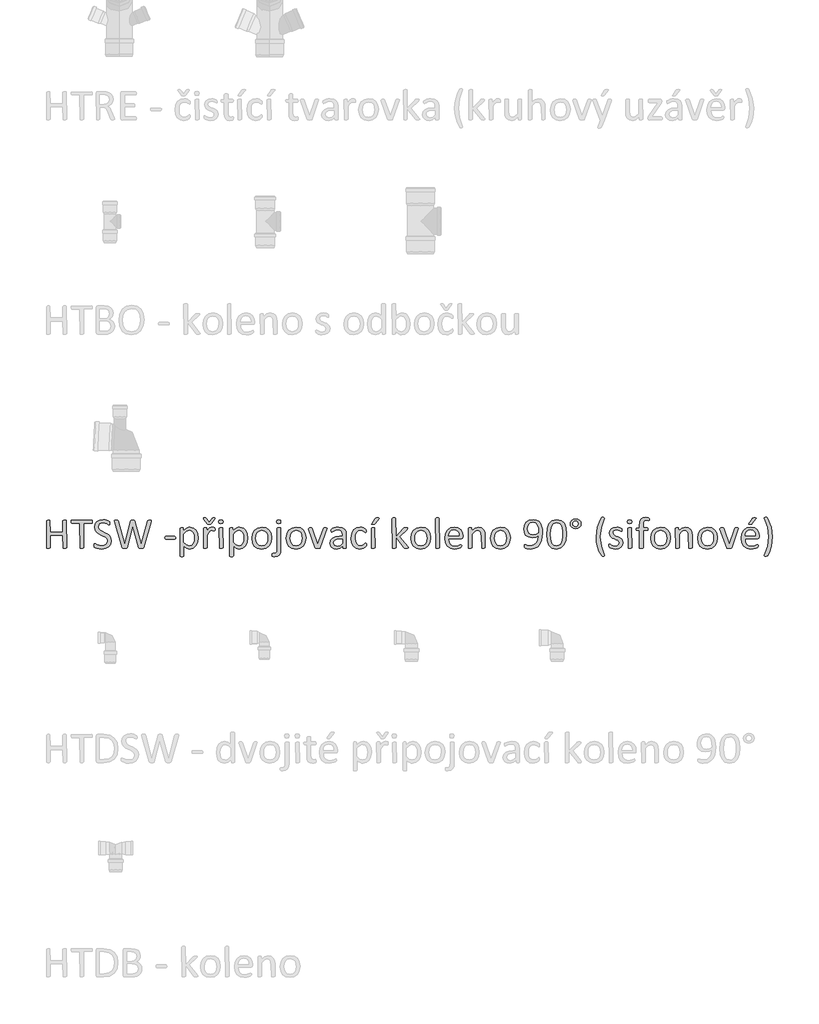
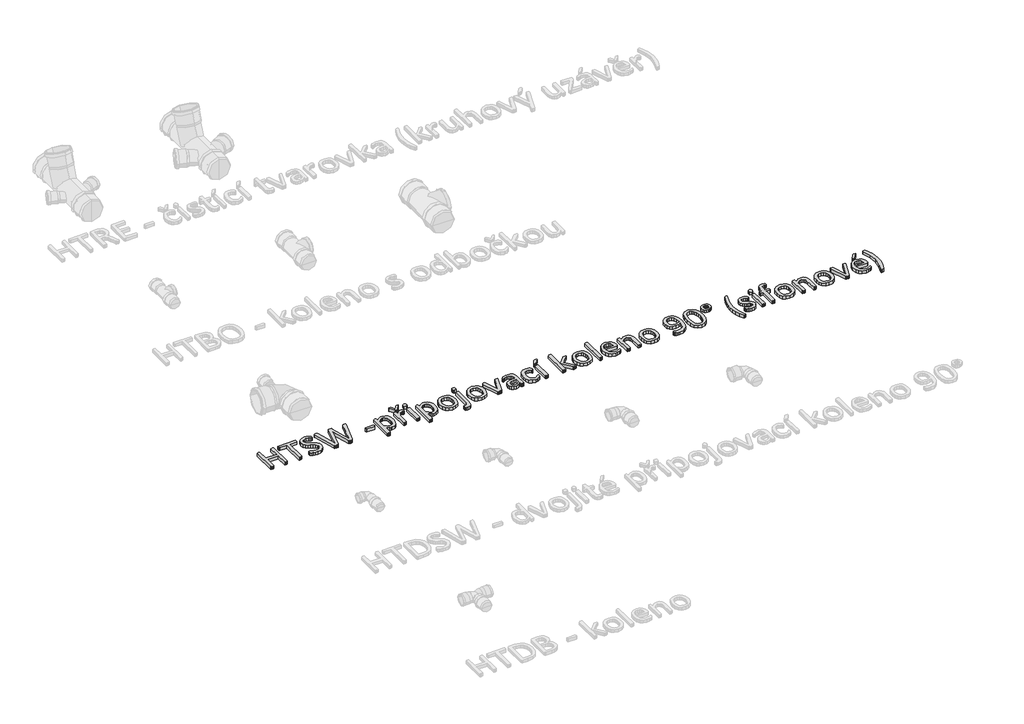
# One storey, part 5 of 26: 1 proxy.
"""IFC4 building model written with IfcOpenShell, lengths in millimetres."""

from ifc_helpers import new_model, si_unit, origin, origin_with_axes, place, context, project, spatial, polyline, outline, extrude, element, save

model = new_model("IFC4")

# Units and contexts
model_context = context("Model", 3, world=origin())
ifc_project = project(units=[si_unit("LENGTHUNIT", "METRE", prefix="MILLI")], contexts=[model_context])

# Site, building, storey
site = spatial("IfcSite", under=ifc_project)
building = spatial("IfcBuilding", under=site)
storey = spatial("IfcBuildingStorey", under=building, Name="Podlaží 1", Elevation=0.0)

# Proxy
placement = place(None, origin())
element("IfcBuildingElementProxy", 1, Name="120mm Arial", ObjectType="120mm Arial", at=placement, inside=storey, context=model_context, shape_type="SweptSolid", body=[
    extrude(outline(polyline([(-20465.0657483, -2131.9493003), (-20469.2817655, -2134.6815689), (-20473.1358927, -2134.9167974), (-20477.1166815, -2134.6815689), (-20479.5775327, -2134.1387341), (-20481.2784151, -2079.3305111), (-20534.5486061, -2079.3305111), (-20534.5486061, -2131.9854893), (-20538.7465288, -2134.6815689), (-20542.6549395, -2134.9167974), (-20546.5271613, -2134.6815689), (-20549.0603905, -2134.1206396), (-20550.7612729, -2017.4473409), (-20546.5271613, -2014.7150723), (-20542.6549395, -2014.4798438), (-20538.7465288, -2014.7150723), (-20536.2494886, -2015.2760016), (-20534.5486061, -2065.4339396), (-20481.2784151, -2065.4339396), (-20481.2784151, -2017.4473409), (-20477.1166815, -2014.7150723), (-20473.1358927, -2014.4798438), (-20469.2817655, -2014.7150723), (-20466.7666308, -2015.2760016), (-20465.0657483, -2131.9493003)])), origin_with_axes(), (0.0, 0.0, 1.0), 15.0),
    extrude(outline(polyline([(-20356.2092711, -2021.5366966), (-20356.390216, -2024.6670441), (-20356.9873343, -2026.8021944), (-20393.2667952, -2028.3764154), (-20393.2667952, -2131.9493003), (-20397.4647179, -2134.6815689), (-20401.3731287, -2134.9167974), (-20405.2453504, -2134.6815689), (-20407.7785796, -2134.1206396), (-20409.4794621, -2028.3764154), (-20443.3885442, -2028.3764154), (-20446.3017578, -2024.6670441), (-20446.5369862, -2021.5366966), (-20446.3017578, -2018.3339711), (-20445.686545, -2016.0902538), (-20359.3939021, -2014.4798438), (-20357.0054288, -2016.0902538), (-20356.390216, -2018.3339711), (-20356.2092711, -2021.5366966)])), origin_with_axes(), (0.0, 0.0, 1.0), 15.0),
    extrude(outline(polyline([(-20275.145937, -2101.3696051), (-20278.25819, -2116.5689802), (-20286.9254527, -2127.8780391), (-20299.9715831, -2134.8806084), (-20316.1118719, -2137.2328926), (-20327.3304583, -2136.3281679), (-20336.5586504, -2134.1025451), (-20343.3621802, -2131.3702765), (-20347.1801185, -2128.9637088), (-20348.7543395, -2126.1771567), (-20349.2609853, -2121.4183047), (-20349.0800404, -2117.8898783), (-20348.519111, -2115.6280665), (-20342.5479279, -2115.5194996), (-20336.3777054, -2118.6679416), (-20327.3123638, -2121.8525725), (-20315.0623912, -2123.3363211), (-20305.4180258, -2121.9249505), (-20297.9088107, -2117.9441618), (-20293.0594863, -2111.6472778), (-20291.3586038, -2103.1428655), (-20293.747077, -2094.3127523), (-20300.0258665, -2087.8892069), (-20308.9102632, -2082.8227485), (-20319.1517469, -2078.11818), (-20329.3389472, -2072.8164932), (-20338.1871548, -2065.9767744), (-20344.5202278, -2056.7123934), (-20346.94489, -2044.0100584), (-20344.1764324, -2030.4210933), (-20336.4862724, -2020.4329324), (-20324.7610401, -2014.2808044), (-20310.0683108, -2012.1637486), (-20301.9438829, -2012.9418118), (-20294.2537229, -2015.0045842), (-20287.8120829, -2017.8816088), (-20284.1027116, -2020.4510269), (-20282.944664, -2021.95287), (-20282.1846952, -2025.2641624), (-20282.0942228, -2028.2316595), (-20282.2389787, -2031.3077235), (-20282.6551521, -2033.5514408), (-20287.8844609, -2033.9133306), (-20293.3128092, -2030.7467941), (-20300.9124968, -2027.5259742), (-20310.7559016, -2026.0603201), (-20319.6041093, -2027.3812182), (-20325.8286153, -2030.8915501), (-20329.5017976, -2036.1027644), (-20330.7322232, -2042.4901209), (-20328.379939, -2051.2116671), (-20322.1011495, -2057.689496), (-20313.1805638, -2062.8645214), (-20302.9933636, -2067.6052789), (-20292.7880688, -2072.8707767), (-20283.8674832, -2079.6381175), (-20277.5525047, -2088.8301206), (-20275.145937, -2101.3696051)])), origin_with_axes(), (0.0, 0.0, 1.0), 15.0),
    extrude(outline(polyline([(-20137.338269, -2130.8636307), (-20138.4782221, -2132.9444975), (-20140.5048055, -2134.1387341), (-20143.6894365, -2134.7358524), (-20148.3759105, -2134.9167974), (-20153.2614239, -2134.7358524), (-20156.5546219, -2134.1387341), (-20158.4907328, -2132.9444975), (-20159.5221189, -2130.8636307), (-20184.6372769, -2040.7530495), (-20208.0153634, -2130.8636307), (-20208.9381826, -2132.9444975), (-20210.783821, -2134.1387341), (-20213.8960741, -2134.7358524), (-20218.763493, -2134.9167974), (-20223.8661404, -2134.7358524), (-20227.1955273, -2134.1387341), (-20229.2040162, -2132.9444975), (-20230.1630244, -2130.8636307), (-20261.9007672, -2020.6681609), (-20262.4978855, -2017.3387739), (-20261.7560113, -2015.4931355), (-20259.2046876, -2014.6607888), (-20254.4820246, -2014.4798438), (-20249.922212, -2014.6245998), (-20247.3708884, -2015.1312456), (-20245.6519114, -2017.8092308), (-20218.691115, -2117.7632168), (-20192.9969332, -2017.9901757), (-20192.291248, -2016.2892933), (-20190.9522554, -2015.2217181), (-20188.3104592, -2014.6607888), (-20183.8049302, -2014.4798438), (-20179.6793855, -2014.6607888), (-20177.2366288, -2015.2217181), (-20175.8795417, -2016.2892933), (-20175.1919509, -2017.9901757), (-20147.6521307, -2117.7632168), (-20121.0170352, -2017.8816088), (-20120.4742004, -2016.2892933), (-20116.8191126, -2014.6607888), (-20112.5126229, -2014.4798438), (-20108.0975664, -2014.7150723), (-20105.7271876, -2015.583608), (-20105.0395968, -2017.4292464), (-20105.5281482, -2020.7405388), (-20137.338269, -2130.8636307)])), origin_with_axes(), (0.0, 0.0, 1.0), 15.0),
    extrude(outline(polyline([(-20001.8466963, -2089.7167508), (-20002.6971375, -2094.2765633), (-20005.1760832, -2095.5431779), (-20044.7668366, -2095.5431779), (-20047.3181603, -2094.2403744), (-20048.1686015, -2089.7167508), (-20047.3181603, -2085.2293162), (-20044.7668366, -2083.9627016), (-20005.1760832, -2083.9627016), (-20002.0819247, -2087.0025767), (-20001.8466963, -2089.7167508)])), origin_with_axes(), (0.0, 0.0, 1.0), 15.0),
    extrude(outline(polyline([(-19906.8867906, -2089.6443728), (-19909.2028859, -2109.494033), (-19916.0064157, -2124.4400852), (-19927.1345297, -2133.9035057), (-19942.3158103, -2137.2328926), (-19949.0288677, -2136.4910184), (-19955.0724287, -2134.1387341), (-19960.9350449, -2130.1036619), (-19967.1052674, -2124.3858017), (-19967.1052674, -2166.6545402), (-19968.7880554, -2168.916352), (-19971.2308121, -2169.4772813), (-19975.2477898, -2169.6582263), (-19979.1923895, -2169.4772813), (-19981.6894297, -2168.916352), (-19982.9741388, -2167.9754383), (-19982.9741388, -2049.8002966), (-19979.5904684, -2047.0499334), (-19976.2248925, -2046.9051775), (-19972.8412221, -2047.0318389), (-19970.6336938, -2047.5022958), (-19969.0594728, -2060.1503473), (-19961.8759586, -2053.3106284), (-19954.9095783, -2048.4793985), (-19947.7079696, -2045.5661849), (-19939.9273371, -2044.5890822), (-19924.7279619, -2048.1536976), (-19914.4864782, -2057.8885355), (-19908.7143346, -2072.2555639), (-19906.8867906, -2089.6443728)]), holes=[polyline([(-19923.0994575, -2091.4176333), (-19924.0403712, -2079.1495662), (-19927.2792856, -2068.6185705), (-19933.4495082, -2061.2541114), (-19943.0757791, -2058.4856538), (-19948.7574503, -2059.336095), (-19954.421027, -2062.0502691), (-19960.4464935, -2066.9357826), (-19967.1052674, -2074.3726197), (-19967.1052674, -2107.919812), (-19955.5066966, -2119.3736268), (-19943.9805038, -2123.3363211), (-19934.3904219, -2120.5678634), (-19927.9125929, -2113.2034043), (-19924.2755996, -2102.9076371), (-19923.0994575, -2091.4176333)])]), origin_with_axes(), (0.0, 0.0, 1.0), 15.0),
    extrude(outline(polyline([(-19847.8263615, -2007.8934479), (-19846.6683139, -2006.6087389), (-19843.3751159, -2005.3421243), (-19840.4799969, -2005.2154628), (-19836.6982476, -2005.5230692), (-19834.8887981, -2006.4096994), (-19836.2458852, -2010.2095432), (-19851.1919374, -2030.6925107), (-19852.3680796, -2031.8505583), (-19853.9603951, -2032.5200546), (-19856.2764903, -2032.8819445), (-19859.6239717, -2033.0086059), (-19862.7724137, -2032.8819445), (-19864.9980365, -2032.4838656), (-19866.5360685, -2031.7600858), (-19882.5677904, -2010.2095432), (-19883.9610665, -2007.9839204), (-19882.0611446, -2005.5230692), (-19878.2974898, -2005.2154628), (-19875.1852368, -2005.3421243), (-19873.3034094, -2005.7944866), (-19870.9873141, -2007.8934479), (-19859.4068378, -2024.0699258), (-19847.8263615, -2007.8934479)])), origin_with_axes(), (0.0, 0.0, 1.0), 15.0),
    extrude(outline(polyline([(-19835.0878376, -2053.8534633), (-19835.1783101, -2057.1466612), (-19835.5401999, -2059.2818115), (-19839.0867208, -2060.4941426), (-19841.4209106, -2059.6617959), (-19844.3341241, -2058.8656382), (-19847.8263615, -2058.4856538), (-19852.2414181, -2059.480851), (-19856.7831362, -2062.7378599), (-19861.7591221, -2068.745232), (-19867.5131712, -2077.9191406), (-19867.5131712, -2132.0940563), (-19871.6387159, -2134.7358524), (-19875.6556936, -2134.9167974), (-19879.6002934, -2134.7358524), (-19882.0973336, -2134.1930176), (-19883.725838, -2049.7279186), (-19879.9983722, -2047.0499334), (-19876.3432844, -2046.9051775), (-19872.7605745, -2047.0499334), (-19870.5530463, -2047.5927683), (-19869.0692977, -2061.7426627), (-19862.8086027, -2053.1658725), (-19857.253593, -2047.9365637), (-19852.0785677, -2045.312862), (-19846.8854478, -2044.5890822), (-19844.2436517, -2044.7157437), (-19841.1313987, -2045.204295), (-19838.2000906, -2046.0185473), (-19836.3544522, -2046.9051775), (-19835.1240266, -2050.5964543), (-19835.0878376, -2053.8534633)])), origin_with_axes(), (0.0, 0.0, 1.0), 15.0),
    extrude(outline(polyline([(-19800.3464087, -2132.0940563), (-19804.4719534, -2134.7358524), (-19808.4889311, -2134.9167974), (-19812.4335308, -2134.7358524), (-19814.930571, -2134.1930176), (-19816.5590755, -2049.7279186), (-19812.4335308, -2047.0861224), (-19808.4889311, -2046.9051775), (-19804.4719534, -2047.0861224), (-19802.0291966, -2047.6289573), (-19800.3464087, -2132.0940563)])), origin_with_axes(), (0.0, 0.0, 1.0), 15.0),
    extrude(outline(polyline([(-19800.3464087, -2021.3195627), (-19802.336803, -2028.7202108), (-19809.7193567, -2030.6925107), (-19816.9209654, -2028.7744943), (-19818.8751708, -2021.5366966), (-19816.8847764, -2014.1360485), (-19809.5022228, -2012.1637486), (-19802.3006141, -2014.081765), (-19800.3464087, -2021.3195627)])), origin_with_axes(), (0.0, 0.0, 1.0), 15.0),
    extrude(outline(polyline([(-19696.122122, -2089.6443728), (-19698.4382172, -2109.494033), (-19705.2417471, -2124.4400852), (-19716.369861, -2133.9035057), (-19731.5511417, -2137.2328926), (-19738.264199, -2136.4910184), (-19744.3077601, -2134.1387341), (-19750.1703762, -2130.1036619), (-19756.3405987, -2124.3858017), (-19756.3405987, -2166.6545402), (-19758.0233867, -2168.916352), (-19760.4661434, -2169.4772813), (-19764.4831211, -2169.6582263), (-19768.4277209, -2169.4772813), (-19770.9247611, -2168.916352), (-19772.2094702, -2167.9754383), (-19772.2094702, -2049.8002966), (-19768.8257998, -2047.0499334), (-19765.4602238, -2046.9051775), (-19762.0765534, -2047.0318389), (-19759.8690251, -2047.5022958), (-19758.2948041, -2060.1503473), (-19751.1112899, -2053.3106284), (-19744.1449096, -2048.4793985), (-19736.9433009, -2045.5661849), (-19729.1626684, -2044.5890822), (-19713.9632933, -2048.1536976), (-19703.7218096, -2057.8885355), (-19697.9496659, -2072.2555639), (-19696.122122, -2089.6443728)]), holes=[polyline([(-19712.3347888, -2091.4176333), (-19713.2757025, -2079.1495662), (-19716.514617, -2068.6185705), (-19722.6848395, -2061.2541114), (-19732.3111104, -2058.4856538), (-19737.9927816, -2059.336095), (-19743.6563583, -2062.0502691), (-19749.6818249, -2066.9357826), (-19756.3405987, -2074.3726197), (-19756.3405987, -2107.919812), (-19744.7420279, -2119.3736268), (-19733.2158351, -2123.3363211), (-19723.6257532, -2120.5678634), (-19717.1479243, -2113.2034043), (-19713.5109309, -2102.9076371), (-19712.3347888, -2091.4176333)])]), origin_with_axes(), (0.0, 0.0, 1.0), 15.0),
    extrude(outline(polyline([(-19594.2139305, -2090.0062627), (-19596.8919157, -2108.9873871), (-19604.9077766, -2123.9334394), (-19618.2615134, -2133.7225607), (-19636.8445589, -2137.2328926), (-19654.7581082, -2134.1387341), (-19667.4966321, -2125.1457705), (-19675.0963197, -2110.8149311), (-19677.5933599, -2091.7071452), (-19674.9515637, -2072.7260207), (-19666.9899863, -2057.798063), (-19653.690533, -2048.0632251), (-19635.0712985, -2044.5890822), (-19617.1396547, -2047.6832407), (-19604.4011308, -2056.6762044), (-19596.7652542, -2071.0070438), (-19594.2139305, -2090.0062627)]), holes=[polyline([(-19610.4265974, -2091.0919324), (-19611.6751175, -2078.5162589), (-19615.7825677, -2068.1300192), (-19623.5089167, -2061.0731665), (-19635.6865113, -2058.4856538), (-19647.2488931, -2060.8560325), (-19655.2104706, -2067.5509954), (-19659.8607556, -2077.7924791), (-19661.3806931, -2090.7300425), (-19660.132173, -2103.3780939), (-19655.9885338, -2113.7281446), (-19648.2079013, -2120.7488084), (-19636.0484012, -2123.3363211), (-19624.5222084, -2120.9659423), (-19616.5063474, -2114.3252629), (-19611.8922514, -2104.1199682), (-19610.4265974, -2091.0919324)])]), origin_with_axes(), (0.0, 0.0, 1.0), 15.0),
    extrude(outline(polyline([(-19554.8403111, -2021.3195627), (-19556.8488, -2028.7202108), (-19564.2494481, -2030.6925107), (-19571.4510568, -2028.7744943), (-19573.3690732, -2021.5366966), (-19571.4148678, -2014.1360485), (-19564.0685032, -2012.1637486), (-19556.7583275, -2014.081765), (-19554.8403111, -2021.3195627)])), origin_with_axes(), (0.0, 0.0, 1.0), 15.0),
    extrude(outline(polyline([(-19554.8403111, -2136.2919789), (-19556.3059652, -2151.672299), (-19560.8838722, -2161.5518929), (-19568.8816386, -2167.6135484), (-19580.6792489, -2169.6582263), (-19585.9990302, -2169.2601474), (-19589.3646061, -2168.3735172), (-19590.9750161, -2167.2516585), (-19591.6083234, -2165.76791), (-19591.8435518, -2164.0308386), (-19591.8978353, -2161.8775938), (-19591.7530793, -2158.8196242), (-19591.264528, -2156.7387574), (-19587.0846998, -2155.5264263), (-19583.1401001, -2155.7616547), (-19577.6212793, -2154.8388355), (-19573.875719, -2151.817055), (-19571.7405687, -2146.3706122), (-19571.0529779, -2136.2196009), (-19571.0529779, -2049.7641076), (-19569.334001, -2047.6470517), (-19566.8550553, -2047.0861224), (-19562.9466445, -2046.9051775), (-19559.0382338, -2047.0861224), (-19556.5592881, -2047.6470517), (-19555.23839, -2048.569871), (-19554.8403111, -2136.2919789)])), origin_with_axes(), (0.0, 0.0, 1.0), 15.0),
    extrude(outline(polyline([(-19448.2999292, -2090.0062627), (-19450.9779143, -2108.9873871), (-19458.9937752, -2123.9334394), (-19472.347512, -2133.7225607), (-19490.9305575, -2137.2328926), (-19508.8441068, -2134.1387341), (-19521.5826307, -2125.1457705), (-19529.1823183, -2110.8149311), (-19531.6793585, -2091.7071452), (-19529.0375624, -2072.7260207), (-19521.0759849, -2057.798063), (-19507.7765317, -2048.0632251), (-19489.1572971, -2044.5890822), (-19471.2256533, -2047.6832407), (-19458.4871294, -2056.6762044), (-19450.8512528, -2071.0070438), (-19448.2999292, -2090.0062627)]), holes=[polyline([(-19464.512596, -2091.0919324), (-19465.7611161, -2078.5162589), (-19469.8685663, -2068.1300192), (-19477.5949153, -2061.0731665), (-19489.7725099, -2058.4856538), (-19501.3348917, -2060.8560325), (-19509.2964692, -2067.5509954), (-19513.9467542, -2077.7924791), (-19515.4666917, -2090.7300425), (-19514.2181716, -2103.3780939), (-19510.0745324, -2113.7281446), (-19502.2938999, -2120.7488084), (-19490.1343998, -2123.3363211), (-19478.608207, -2120.9659423), (-19470.592346, -2114.3252629), (-19465.97825, -2104.1199682), (-19464.512596, -2091.0919324)])]), origin_with_axes(), (0.0, 0.0, 1.0), 15.0),
    extrude(outline(polyline([(-19358.9402695, -2048.497493), (-19387.4300506, -2131.6235994), (-19388.4071533, -2133.2701984), (-19390.2166027, -2134.2653956), (-19393.2745722, -2134.7720414), (-19397.9248573, -2134.9167974), (-19402.5389533, -2134.7358524), (-19405.5607338, -2134.1930176), (-19407.3701832, -2133.1797259), (-19408.3834749, -2131.6235994), (-19436.7556418, -2053.3830064), (-19437.3527602, -2051.4830845), (-19433.7519558, -2046.99565), (-19430.169246, -2046.9051775), (-19425.8627563, -2047.0499334), (-19423.3657161, -2047.5565793), (-19421.2667548, -2049.8364855), (-19397.7077233, -2117.7270279), (-19373.786802, -2049.8364855), (-19371.8145021, -2047.5565793), (-19369.3898399, -2047.0499334), (-19365.3547677, -2046.9051775), (-19361.8263413, -2046.99565), (-19358.9402695, -2048.497493)])), origin_with_axes(), (0.0, 0.0, 1.0), 15.0),
    extrude(outline(polyline([(-19276.9088799, -2132.1302453), (-19277.7050377, -2133.8130332), (-19279.876377, -2134.64538), (-19283.9295437, -2134.9167974), (-19288.0369939, -2134.64538), (-19290.2626167, -2133.8130332), (-19290.9502074, -2132.1302453), (-19290.9502074, -2123.8067779), (-19303.1458965, -2133.4330488), (-19317.404358, -2137.2328926), (-19329.3648187, -2135.5139157), (-19338.4663493, -2130.5379298), (-19344.3108709, -2122.5401633), (-19346.3917377, -2111.7558448), (-19343.5147131, -2099.4877777), (-19335.2636238, -2090.8386094), (-19322.1089265, -2085.6816786), (-19304.5934561, -2083.9627016), (-19293.1215467, -2083.9627016), (-19293.1215467, -2077.0506049), (-19294.1348384, -2068.0033577), (-19297.3918474, -2061.4531508), (-19303.20018, -2057.5085511), (-19311.9760097, -2056.1695585), (-19322.018454, -2057.6171181), (-19329.7990865, -2060.801749), (-19335.3902852, -2063.98638), (-19338.7196722, -2065.4339396), (-19341.5786023, -2061.9055132), (-19341.7595472, -2059.2456225), (-19341.4338463, -2055.4457788), (-19339.8415308, -2052.7858881), (-19335.4988522, -2050.071714), (-19328.4058105, -2047.3937288), (-19319.6299808, -2045.38524), (-19310.0218043, -2044.5890822), (-19294.6414843, -2046.6337601), (-19284.381906, -2052.6049432), (-19278.6821404, -2062.3578755), (-19276.9088799, -2075.9649352), (-19276.9088799, -2132.1302453)]), holes=[polyline([(-19293.1215467, -2095.5431779), (-19306.0048266, -2095.5431779), (-19316.7529562, -2096.6107531), (-19324.3345493, -2099.7591951), (-19328.7677004, -2104.7532755), (-19330.1790709, -2111.4663329), (-19326.1259042, -2121.8163836), (-19314.7625618, -2125.6524163), (-19303.7611093, -2122.5944468), (-19293.1215467, -2113.2395933), (-19293.1215467, -2095.5431779)])]), origin_with_axes(), (0.0, 0.0, 1.0), 15.0),
    extrude(outline(polyline([(-19191.2133553, -2118.2698627), (-19191.3038278, -2120.8030919), (-19191.6295287, -2122.6125413), (-19193.619923, -2126.2495346), (-19197.5102393, -2129.777961), (-19203.6804618, -2133.5235213), (-19211.1172989, -2136.2015065), (-19219.4407663, -2137.2328926), (-19235.1467873, -2134.2292066), (-19246.6006021, -2125.4533769), (-19253.6393604, -2111.3034824), (-19256.0640226, -2091.9604681), (-19253.0965255, -2070.5184924), (-19244.9720976, -2055.8438576), (-19232.830692, -2047.3575398), (-19217.7036948, -2044.5890822), (-19210.0678183, -2045.4033345), (-19203.2642884, -2047.5384848), (-19197.7273732, -2050.5783598), (-19194.2170413, -2053.5277624), (-19192.7151983, -2055.4638733), (-19192.0276075, -2057.0019053), (-19191.6657177, -2058.9018272), (-19191.5752452, -2061.5617178), (-19192.3894974, -2066.3748533), (-19194.3617973, -2067.7500348), (-19197.4921448, -2066.3024753), (-19201.9614849, -2063.1178443), (-19208.5297863, -2059.9332133), (-19217.5951279, -2058.4856538), (-19227.1173555, -2060.5846151), (-19234.1154011, -2066.8814991), (-19238.4173671, -2077.1772663), (-19239.8513558, -2091.2728773), (-19238.3676072, -2105.2780158), (-19233.9887396, -2115.3385546), (-19226.8776034, -2121.3640212), (-19217.233238, -2123.3363211), (-19208.2040854, -2121.5087771), (-19201.4729335, -2117.4917994), (-19196.6778926, -2113.5291052), (-19193.6380175, -2111.7558448), (-19191.3400168, -2115.3204601), (-19191.2133553, -2118.2698627)])), origin_with_axes(), (0.0, 0.0, 1.0), 15.0),
    extrude(outline(polyline([(-19154.1558311, -2132.0940563), (-19158.2813758, -2134.7358524), (-19162.2983535, -2134.9167974), (-19166.2429533, -2134.7358524), (-19168.7399935, -2134.1930176), (-19170.368498, -2049.7279186), (-19166.2429533, -2047.0499334), (-19162.2983535, -2046.9051775), (-19158.2813758, -2047.0499334), (-19155.8386191, -2047.5927683), (-19154.1558311, -2132.0940563)])), origin_with_axes(), (0.0, 0.0, 1.0), 15.0),
    extrude(outline(polyline([(-19154.1920201, -2008.5086608), (-19152.8530276, -2006.9163453), (-19150.9892947, -2005.9392426), (-19148.257026, -2005.3964077), (-19144.3486153, -2005.2154628), (-19140.0059367, -2005.5230692), (-19137.6898414, -2006.4096994), (-19137.9431643, -2009.3410075), (-19155.2415008, -2030.1496758), (-19156.6347768, -2031.5791409), (-19158.0642419, -2032.4295821), (-19160.1632032, -2032.8819445), (-19163.3840232, -2033.0086059), (-19166.7134101, -2032.7371885), (-19168.4504816, -2032.0134087), (-19168.0524027, -2029.1725732), (-19154.1920201, -2008.5086608)])), origin_with_axes(), (0.0, 0.0, 1.0), 15.0),
    extrude(outline(polyline([(-19012.8740203, -2131.9854893), (-19016.9452815, -2134.7358524), (-19020.9441647, -2134.9167974), (-19025.0697094, -2134.7720414), (-19027.8200725, -2134.3196791), (-19029.6295219, -2133.4149543), (-19030.8961365, -2131.9854893), (-19066.1442113, -2086.4235529), (-19066.1442113, -2132.0940563), (-19070.2697559, -2134.7358524), (-19074.2867337, -2134.9167974), (-19078.2313334, -2134.7358524), (-19080.7283736, -2134.1749231), (-19082.3568781, -2008.1829599), (-19078.2313334, -2005.3964077), (-19074.2867337, -2005.2154628), (-19070.2697559, -2005.3964077), (-19067.8269992, -2005.9573371), (-19066.5422901, -2006.8982508), (-19066.1442113, -2084.3245915), (-19033.9360115, -2050.0898085), (-19032.3256016, -2048.5879654), (-19030.2990182, -2047.5927683), (-19027.5124661, -2047.0499334), (-19023.6221498, -2046.9051775), (-19019.6413611, -2047.0499334), (-19017.0538484, -2047.5022958), (-19015.6243834, -2048.316548), (-19015.8234228, -2051.8449744), (-19017.9404787, -2054.3962981), (-19049.9315444, -2084.2160246), (-19015.1539266, -2127.6789997), (-19013.3987606, -2130.1941344), (-19012.8740203, -2131.9854893)])), origin_with_axes(), (0.0, 0.0, 1.0), 15.0),
    extrude(outline(polyline([(-18917.9141146, -2090.0062627), (-18920.5920998, -2108.9873871), (-18928.6079607, -2123.9334394), (-18941.9616974, -2133.7225607), (-18960.544743, -2137.2328926), (-18978.4582923, -2134.1387341), (-18991.1968162, -2125.1457705), (-18998.7965038, -2110.8149311), (-19001.293544, -2091.7071452), (-18998.6517478, -2072.7260207), (-18990.6901704, -2057.798063), (-18977.3907171, -2048.0632251), (-18958.7714826, -2044.5890822), (-18940.8398388, -2047.6832407), (-18928.1013149, -2056.6762044), (-18920.4654383, -2071.0070438), (-18917.9141146, -2090.0062627)]), holes=[polyline([(-18934.1267814, -2091.0919324), (-18935.3753015, -2078.5162589), (-18939.4827517, -2068.1300192), (-18947.2091008, -2061.0731665), (-18959.3866954, -2058.4856538), (-18970.9490772, -2060.8560325), (-18978.9106546, -2067.5509954), (-18983.5609396, -2077.7924791), (-18985.0808772, -2090.7300425), (-18983.8323571, -2103.3780939), (-18979.6887179, -2113.7281446), (-18971.9080854, -2120.7488084), (-18959.7485853, -2123.3363211), (-18948.2223924, -2120.9659423), (-18940.2065315, -2114.3252629), (-18935.5924355, -2104.1199682), (-18934.1267814, -2091.0919324)])]), origin_with_axes(), (0.0, 0.0, 1.0), 15.0),
    extrude(outline(polyline([(-18880.8565905, -2132.0578673), (-18884.9821351, -2134.7358524), (-18888.9991129, -2134.9167974), (-18892.9437126, -2134.7358524), (-18895.4407528, -2134.1749231), (-18897.0692573, -2008.1829599), (-18892.9437126, -2005.3964077), (-18888.9991129, -2005.2154628), (-18884.9821351, -2005.3964077), (-18882.5393784, -2005.9573371), (-18880.8565905, -2132.0578673)])), origin_with_axes(), (0.0, 0.0, 1.0), 15.0),
    extrude(outline(polyline([(-18781.2644943, -2086.6044978), (-18783.0558492, -2091.7071452), (-18787.1632994, -2093.2270827), (-18841.482971, -2093.2270827), (-18840.125884, -2106.6170084), (-18835.6203549, -2116.8223031), (-18827.4054545, -2123.3725101), (-18815.0288205, -2125.6524163), (-18804.7511478, -2124.5848412), (-18796.9343263, -2122.1782734), (-18791.5240725, -2119.7717057), (-18788.321347, -2118.7041305), (-18786.0233463, -2121.5992496), (-18785.8966848, -2124.2410458), (-18785.9871573, -2126.1771567), (-18790.4384028, -2131.5693159), (-18796.7895703, -2134.0663561), (-18805.8368174, -2136.2557899), (-18816.8020809, -2137.2328926), (-18834.4804018, -2134.3377735), (-18847.2370202, -2125.7247943), (-18855.0538417, -2111.3758604), (-18857.6956379, -2091.3452553), (-18854.9271802, -2071.8032015), (-18846.9475083, -2057.1104722), (-18834.3537403, -2047.8279967), (-18817.8153726, -2044.5890822), (-18801.1684379, -2047.7194297), (-18789.859379, -2056.151464), (-18783.3453611, -2068.5823816), (-18781.2644943, -2083.8179457), (-18781.2644943, -2086.6044978)]), holes=[polyline([(-18797.4771611, -2081.6466064), (-18798.6487796, -2071.0206147), (-18802.6702809, -2062.9549939), (-18809.4421454, -2057.8659174), (-18818.8648533, -2056.1695585), (-18828.5092187, -2058.2685199), (-18835.43941, -2063.8597186), (-18839.7639941, -2071.9841465), (-18841.482971, -2081.6466064), (-18797.4771611, -2081.6466064)])]), origin_with_axes(), (0.0, 0.0, 1.0), 15.0),
    extrude(outline(polyline([(-18686.3045886, -2132.0578673), (-18690.4301333, -2134.7358524), (-18694.374733, -2134.9167974), (-18698.3917108, -2134.7358524), (-18700.8344675, -2134.1930176), (-18702.5172554, -2083.7093787), (-18703.5848306, -2072.3460364), (-18706.6789891, -2064.9091992), (-18711.9444869, -2060.1322528), (-18719.417513, -2058.4856538), (-18730.400871, -2062.520726), (-18741.8908749, -2074.3726197), (-18741.8908749, -2132.0578673), (-18746.0164195, -2134.7358524), (-18750.0333973, -2134.9167974), (-18753.977997, -2134.7358524), (-18756.4750372, -2134.1930176), (-18758.1035417, -2049.7279186), (-18754.3760759, -2047.0499334), (-18750.720988, -2046.9051775), (-18747.1382782, -2047.0499334), (-18744.9307499, -2047.5927683), (-18743.4470014, -2060.6208041), (-18729.6047133, -2048.4432095), (-18715.6900472, -2044.5890822), (-18701.8658536, -2047.4118233), (-18692.7824175, -2054.9572274), (-18687.8064316, -2066.0129634), (-18686.3045886, -2081.2485275), (-18686.3045886, -2132.0578673)])), origin_with_axes(), (0.0, 0.0, 1.0), 15.0),
    extrude(outline(polyline([(-18579.7642067, -2090.0062627), (-18582.4421918, -2108.9873871), (-18590.4580527, -2123.9334394), (-18603.8117895, -2133.7225607), (-18622.394835, -2137.2328926), (-18640.3083843, -2134.1387341), (-18653.0469082, -2125.1457705), (-18660.6465958, -2110.8149311), (-18663.143636, -2091.7071452), (-18660.5018399, -2072.7260207), (-18652.5402624, -2057.798063), (-18639.2408092, -2048.0632251), (-18620.6215746, -2044.5890822), (-18602.6899308, -2047.6832407), (-18589.9514069, -2056.6762044), (-18582.3155303, -2071.0070438), (-18579.7642067, -2090.0062627)]), holes=[polyline([(-18595.9768735, -2091.0919324), (-18597.2253936, -2078.5162589), (-18601.3328438, -2068.1300192), (-18609.0591928, -2061.0731665), (-18621.2367874, -2058.4856538), (-18632.7991692, -2060.8560325), (-18640.7607467, -2067.5509954), (-18645.4110317, -2077.7924791), (-18646.9309692, -2090.7300425), (-18645.6824491, -2103.3780939), (-18641.5388099, -2113.7281446), (-18633.7581774, -2120.7488084), (-18621.5986773, -2123.3363211), (-18610.0724845, -2120.9659423), (-18602.0566235, -2114.3252629), (-18597.4425275, -2104.1199682), (-18595.9768735, -2091.0919324)])]), origin_with_axes(), (0.0, 0.0, 1.0), 15.0),
    extrude(outline(polyline([(-18443.1145863, -2069.9213741), (-18444.0555, -2085.880718), (-18447.240131, -2101.4057941), (-18453.2836921, -2115.3928381), (-18462.8556795, -2126.810464), (-18476.5532116, -2134.464435), (-18494.9734067, -2137.2328926), (-18502.7902283, -2136.6900578), (-18509.6480416, -2135.3329707), (-18514.7687834, -2133.6320883), (-18517.7724695, -2131.8407333), (-18519.1295565, -2129.3798821), (-18519.5457299, -2125.2181485), (-18519.4009739, -2121.870667), (-18518.9848006, -2120.0069341), (-18514.0088147, -2119.5907608), (-18509.2499627, -2121.1287928), (-18502.5188108, -2122.6487303), (-18493.8515481, -2123.3363211), (-18478.1817161, -2119.9164617), (-18467.5059645, -2110.7244586), (-18461.299553, -2097.3707219), (-18459.0377412, -2081.2485275), (-18470.7629735, -2086.3692694), (-18486.4689945, -2088.5948922), (-18503.2425906, -2085.8264345), (-18514.1354761, -2078.262936), (-18520.0523757, -2066.8814991), (-18521.8618252, -2052.4782817), (-18519.5457299, -2037.1160561), (-18512.3441212, -2024.2870597), (-18499.8770147, -2015.4569465), (-18481.764426, -2012.1637486), (-18468.4830672, -2014.081765), (-18458.4406229, -2019.6186802), (-18451.2390142, -2028.3583209), (-18446.4801622, -2039.9568917), (-18443.8926496, -2053.9982192), (-18443.1145863, -2069.9213741)]), holes=[polyline([(-18459.3272531, -2068.9442714), (-18460.9014741, -2047.7194297), (-18465.4974757, -2033.7866692), (-18472.9524073, -2026.1146036), (-18483.1757965, -2023.7442249), (-18493.3991858, -2026.0603201), (-18500.365566, -2032.2667317), (-18504.3644492, -2041.0787503), (-18505.6491583, -2051.2116671), (-18504.4911107, -2061.8512297), (-18500.7636449, -2070.0118466), (-18494.0505875, -2075.1868719), (-18483.8271983, -2077.0144159), (-18470.4734616, -2074.8068876), (-18459.3272531, -2068.9442714)])]), origin_with_axes(), (0.0, 0.0, 1.0), 15.0),
    extrude(outline(polyline([(-18341.2063949, -2074.4088087), (-18343.3958287, -2099.9582345), (-18350.6698154, -2119.8078947), (-18363.9511741, -2132.6730801), (-18384.1627242, -2137.2328926), (-18403.306699, -2133.1435369), (-18415.828089, -2121.1287928), (-18422.5773354, -2101.6048335), (-18424.5858242, -2074.9878325), (-18422.342107, -2049.4926902), (-18415.0681203, -2029.5887465), (-18401.841045, -2016.7235611), (-18381.7380619, -2012.1637486), (-18362.4855201, -2016.2531043), (-18349.9641301, -2028.2678484), (-18343.2148837, -2047.7918077), (-18341.2063949, -2074.4088087)]), holes=[polyline([(-18357.4190617, -2075.5306673), (-18358.0704635, -2059.408473), (-18359.9884799, -2046.7966105), (-18363.2816778, -2037.405568), (-18368.1129078, -2030.9277391), (-18374.5364532, -2027.2183678), (-18382.6789756, -2026.0603201), (-18395.616539, -2029.7696915), (-18403.451455, -2039.9568917), (-18407.3417712, -2055.1381724), (-18408.3731574, -2073.8659739), (-18406.9617869, -2096.7012256), (-18402.5105413, -2112.0453567), (-18394.7299088, -2120.6583359), (-18383.2218105, -2123.3363211), (-18373.9755239, -2121.6716276), (-18367.1177106, -2116.8946811), (-18362.3950476, -2109.4397495), (-18359.3913616, -2099.8134786), (-18357.8352351, -2088.3596637), (-18357.4190617, -2075.5306673)])]), origin_with_axes(), (0.0, 0.0, 1.0), 15.0),
    extrude(outline(polyline([(-18278.6718229, -2030.3306208), (-18280.4269888, -2038.5998046), (-18285.3667857, -2045.38524), (-18292.8579063, -2049.926958), (-18302.1946653, -2051.537368), (-18311.3866684, -2050.0536195), (-18318.5520881, -2045.8737913), (-18323.2928456, -2039.4140569), (-18324.9937281, -2031.0544005), (-18323.1842786, -2022.5499883), (-18318.2082927, -2015.8550254), (-18310.7714556, -2011.4580633), (-18301.4708856, -2009.8476533), (-18292.333166, -2011.3675908), (-18285.1134628, -2015.547419), (-18280.3727053, -2021.9709645), (-18278.6718229, -2030.3306208)]), holes=[polyline([(-18290.2522992, -2030.6563217), (-18291.1208349, -2026.0603201), (-18293.5454971, -2022.3871378), (-18297.2548684, -2019.9805701), (-18301.9413424, -2019.1120344), (-18306.464966, -2019.9805701), (-18310.1200538, -2022.3871378), (-18312.544716, -2026.0060367), (-18313.4132518, -2030.4753767), (-18312.544716, -2035.2885122), (-18310.0657703, -2038.9978835), (-18306.2659265, -2041.4044512), (-18301.5432635, -2042.272987), (-18297.1101125, -2041.3682623), (-18293.5093081, -2038.8712221), (-18291.1208349, -2035.1980397), (-18290.2522992, -2030.6563217)])]), origin_with_axes(), (0.0, 0.0, 1.0), 15.0),
    extrude(outline(polyline([(-18180.2739633, -2006.7354003), (-18193.3743771, -2045.168106), (-18197.6808667, -2084.8312374), (-18193.2839046, -2124.5486522), (-18180.4549082, -2163.1442083), (-18179.9301679, -2165.0622247), (-18182.5176806, -2167.1069026), (-18186.2089574, -2167.342131), (-18189.0678875, -2167.2516585), (-18191.1487543, -2166.8716742), (-18202.2406793, -2146.1353838), (-18208.6280357, -2126.3219126), (-18212.518352, -2105.9475121), (-18213.8211556, -2085.1207493), (-18212.3916905, -2064.3301754), (-18208.3023348, -2043.9557749), (-18201.8426004, -2024.0518313), (-18193.3381881, -2004.672628), (-18189.6107223, -2003.0441235), (-18186.2813354, -2002.8993675), (-18182.8433815, -2003.170785), (-18180.7987036, -2003.9126592), (-18180.2739633, -2006.7354003)])), origin_with_axes(), (0.0, 0.0, 1.0), 15.0),
    extrude(outline(polyline([(-18100.3324878, -2110.1635293), (-18102.7390556, -2121.6897221), (-18109.5968689, -2130.2122289), (-18120.182148, -2135.4596322), (-18133.6987352, -2137.2328926), (-18142.3659979, -2136.4005459), (-18149.7304571, -2134.2834901), (-18155.2492778, -2131.6055049), (-18158.5605702, -2129.0903702), (-18160.0805077, -2126.4304796), (-18160.5509646, -2122.2144624), (-18160.3700197, -2119.4821938), (-18159.8995628, -2117.6908389), (-18154.9416714, -2117.8355948), (-18150.019969, -2121.0202258), (-18143.0897777, -2124.2048568), (-18133.9158691, -2125.6524163), (-18126.8590164, -2124.7657861), (-18121.3763846, -2122.1420844), (-18117.7936748, -2117.7270279), (-18116.5451547, -2111.3939549), (-18118.3365096, -2105.4046773), (-18123.0953616, -2101.0800932), (-18129.7360409, -2097.7507062), (-18137.3357285, -2094.7108312), (-18144.9896996, -2091.1100269), (-18151.6846624, -2086.1883244), (-18156.4435144, -2079.2581331), (-18158.2348693, -2069.5956732), (-18156.3168529, -2060.0960638), (-18150.5628038, -2052.1344863), (-18140.9727219, -2046.6518546), (-18127.5104182, -2044.5890822), (-18120.7792663, -2045.204295), (-18114.6995162, -2046.7604215), (-18110.0673257, -2048.7870049), (-18107.1722067, -2050.7050213), (-18105.8694031, -2052.0802028), (-18105.1094343, -2054.9210384), (-18104.9646784, -2057.3276062), (-18105.1094343, -2059.9513078), (-18105.5798912, -2061.7788517), (-18109.9587588, -2062.0140802), (-18114.1747759, -2059.6437014), (-18120.254526, -2057.2733227), (-18128.2341979, -2056.1695585), (-18135.3272397, -2057.0923777), (-18140.357509, -2059.7160794), (-18143.3250061, -2063.7330571), (-18144.3382978, -2068.7633265), (-18142.4202814, -2074.89736), (-18137.4081065, -2079.2581331), (-18130.3693482, -2082.6237091), (-18122.3353928, -2085.6997731), (-18114.2471539, -2089.2643885), (-18107.1722067, -2094.0413349), (-18102.2143152, -2100.7905813), (-18100.3324878, -2110.1635293)])), origin_with_axes(), (0.0, 0.0, 1.0), 15.0),
    extrude(outline(polyline([(-18063.2749637, -2021.3195627), (-18065.265358, -2028.7202108), (-18072.6479117, -2030.6925107), (-18079.8495204, -2028.7744943), (-18081.8037258, -2021.5366966), (-18079.8133314, -2014.1360485), (-18072.4307778, -2012.1637486), (-18065.2291691, -2014.081765), (-18063.2749637, -2021.3195627)])), origin_with_axes(), (0.0, 0.0, 1.0), 15.0),
    extrude(outline(polyline([(-18063.2749637, -2132.0940563), (-18067.4005084, -2134.7358524), (-18071.4174861, -2134.9167974), (-18075.3620858, -2134.7358524), (-18077.859126, -2134.1930176), (-18079.4876305, -2049.7279186), (-18075.3620858, -2047.0861224), (-18071.4174861, -2046.9051775), (-18067.4005084, -2047.0861224), (-18064.9577516, -2047.6289573), (-18063.2749637, -2132.0940563)])), origin_with_axes(), (0.0, 0.0, 1.0), 15.0),
    extrude(outline(polyline([(-17989.1599154, -2011.7656697), (-17989.3408603, -2014.3893714), (-17989.7389392, -2016.0359703), (-17992.7788142, -2016.7416556), (-17995.076815, -2015.8188364), (-17998.2614459, -2014.8960172), (-18002.5136521, -2014.4798438), (-18008.1772288, -2015.7283639), (-18011.9408836, -2019.6186802), (-18014.0036559, -2026.4764935), (-18014.6369632, -2036.7360717), (-18014.6369632, -2046.9051775), (-17996.7234139, -2046.9051775), (-17994.0092398, -2050.035525), (-17993.7921059, -2052.7316046), (-17994.5882636, -2057.1285667), (-17996.7234139, -2058.4856538), (-18014.6369632, -2058.4856538), (-18014.6369632, -2132.0216783), (-18016.3559402, -2134.1749231), (-18018.8348859, -2134.7358524), (-18022.7432966, -2134.9167974), (-18026.6517074, -2134.7358524), (-18029.1306531, -2134.1749231), (-18030.4515512, -2133.2882929), (-18030.84963, -2058.4856538), (-18041.9596495, -2058.4856538), (-18044.0405163, -2057.1285667), (-18044.7462016, -2052.7316046), (-18044.5652567, -2050.035525), (-18044.0405163, -2048.2079811), (-18030.84963, -2046.9051775), (-18030.84963, -2037.7855524), (-18029.2211256, -2021.9709645), (-18024.2632341, -2011.1323624), (-18015.8854833, -2004.9078564), (-18003.9974006, -2002.8993675), (-17997.6824221, -2003.4422024), (-17992.9597591, -2004.6183445), (-17990.7341364, -2005.7582976), (-17989.8113171, -2007.0791957), (-17989.3046713, -2009.0334011), (-17989.1599154, -2011.7656697)])), origin_with_axes(), (0.0, 0.0, 1.0), 15.0),
    extrude(outline(polyline([(-17898.8322002, -2090.0062627), (-17901.5101854, -2108.9873871), (-17909.5260463, -2123.9334394), (-17922.879783, -2133.7225607), (-17941.4628286, -2137.2328926), (-17959.3763779, -2134.1387341), (-17972.1149018, -2125.1457705), (-17979.7145894, -2110.8149311), (-17982.2116296, -2091.7071452), (-17979.5698334, -2072.7260207), (-17971.608256, -2057.798063), (-17958.3088027, -2048.0632251), (-17939.6895682, -2044.5890822), (-17921.7579244, -2047.6832407), (-17909.0194005, -2056.6762044), (-17901.3835239, -2071.0070438), (-17898.8322002, -2090.0062627)]), holes=[polyline([(-17915.044867, -2091.0919324), (-17916.2933871, -2078.5162589), (-17920.4008373, -2068.1300192), (-17928.1271864, -2061.0731665), (-17940.304781, -2058.4856538), (-17951.8671628, -2060.8560325), (-17959.8287402, -2067.5509954), (-17964.4790252, -2077.7924791), (-17965.9989628, -2090.7300425), (-17964.7504427, -2103.3780939), (-17960.6068035, -2113.7281446), (-17952.826171, -2120.7488084), (-17940.6666708, -2123.3363211), (-17929.140478, -2120.9659423), (-17921.1246171, -2114.3252629), (-17916.5105211, -2104.1199682), (-17915.044867, -2091.0919324)])]), origin_with_axes(), (0.0, 0.0, 1.0), 15.0),
    extrude(outline(polyline([(-17806.1883898, -2132.0578673), (-17810.3139345, -2134.7358524), (-17814.2585342, -2134.9167974), (-17818.275512, -2134.7358524), (-17820.7182687, -2134.1930176), (-17822.4010566, -2083.7093787), (-17823.4686318, -2072.3460364), (-17826.5627903, -2064.9091992), (-17831.8282881, -2060.1322528), (-17839.3013142, -2058.4856538), (-17850.2846722, -2062.520726), (-17861.7746761, -2074.3726197), (-17861.7746761, -2132.0578673), (-17865.9002207, -2134.7358524), (-17869.9171985, -2134.9167974), (-17873.8617982, -2134.7358524), (-17876.3588384, -2134.1930176), (-17877.9873429, -2049.7279186), (-17874.2598771, -2047.0499334), (-17870.6047892, -2046.9051775), (-17867.0220794, -2047.0499334), (-17864.8145511, -2047.5927683), (-17863.3308026, -2060.6208041), (-17849.4885145, -2048.4432095), (-17835.5738484, -2044.5890822), (-17821.7496548, -2047.4118233), (-17812.6662187, -2054.9572274), (-17807.6902328, -2066.0129634), (-17806.1883898, -2081.2485275), (-17806.1883898, -2132.0578673)])), origin_with_axes(), (0.0, 0.0, 1.0), 15.0),
    extrude(outline(polyline([(-17699.6480079, -2090.0062627), (-17702.325993, -2108.9873871), (-17710.3418539, -2123.9334394), (-17723.6955907, -2133.7225607), (-17742.2786362, -2137.2328926), (-17760.1921855, -2134.1387341), (-17772.9307094, -2125.1457705), (-17780.530397, -2110.8149311), (-17783.0274372, -2091.7071452), (-17780.3856411, -2072.7260207), (-17772.4240636, -2057.798063), (-17759.1246104, -2048.0632251), (-17740.5053758, -2044.5890822), (-17722.573732, -2047.6832407), (-17709.8352081, -2056.6762044), (-17702.1993315, -2071.0070438), (-17699.6480079, -2090.0062627)]), holes=[polyline([(-17715.8606747, -2091.0919324), (-17717.1091948, -2078.5162589), (-17721.216645, -2068.1300192), (-17728.942994, -2061.0731665), (-17741.1205886, -2058.4856538), (-17752.6829704, -2060.8560325), (-17760.6445479, -2067.5509954), (-17765.2948329, -2077.7924791), (-17766.8147704, -2090.7300425), (-17765.5662503, -2103.3780939), (-17761.4226111, -2113.7281446), (-17753.6419786, -2120.7488084), (-17741.4824785, -2123.3363211), (-17729.9562857, -2120.9659423), (-17721.9404247, -2114.3252629), (-17717.3263287, -2104.1199682), (-17715.8606747, -2091.0919324)])]), origin_with_axes(), (0.0, 0.0, 1.0), 15.0),
    extrude(outline(polyline([(-17610.2883482, -2048.497493), (-17638.7781293, -2131.6235994), (-17639.755232, -2133.2701984), (-17641.5646814, -2134.2653956), (-17644.6226509, -2134.7720414), (-17649.2729359, -2134.9167974), (-17653.887032, -2134.7358524), (-17656.9088125, -2134.1930176), (-17658.7182619, -2133.1797259), (-17659.7315536, -2131.6235994), (-17688.1037205, -2053.3830064), (-17688.7008389, -2051.4830845), (-17685.1000345, -2046.99565), (-17681.5173246, -2046.9051775), (-17677.210835, -2047.0499334), (-17674.7137948, -2047.5565793), (-17672.6148335, -2049.8364855), (-17649.055802, -2117.7270279), (-17625.1348807, -2049.8364855), (-17623.1625808, -2047.5565793), (-17620.7379186, -2047.0499334), (-17616.7028464, -2046.9051775), (-17613.17442, -2046.99565), (-17610.2883482, -2048.497493)])), origin_with_axes(), (0.0, 0.0, 1.0), 15.0),
    extrude(outline(polyline([(-17551.4541002, -2008.5086608), (-17550.1151076, -2006.9163453), (-17548.2513747, -2005.9392426), (-17545.5191061, -2005.3964077), (-17541.6106953, -2005.2154628), (-17537.2680167, -2005.5230692), (-17534.9519215, -2006.4096994), (-17535.2052444, -2009.3410075), (-17552.5035809, -2030.1496758), (-17553.8968569, -2031.5791409), (-17555.326322, -2032.4295821), (-17557.4252833, -2032.8819445), (-17560.6461033, -2033.0086059), (-17563.9754902, -2032.7371885), (-17565.7125616, -2032.0134087), (-17565.3144828, -2029.1725732), (-17551.4541002, -2008.5086608)])), origin_with_axes(), (0.0, 0.0, 1.0), 15.0),
    extrude(outline(polyline([(-17521.3086728, -2086.6044978), (-17523.1000278, -2091.7071452), (-17527.2074779, -2093.2270827), (-17581.5271496, -2093.2270827), (-17580.1700625, -2106.6170084), (-17575.6645335, -2116.8223031), (-17567.4496331, -2123.3725101), (-17555.072999, -2125.6524163), (-17544.7953263, -2124.5848412), (-17536.9785048, -2122.1782734), (-17531.5682511, -2119.7717057), (-17528.3655256, -2118.7041305), (-17526.0675248, -2121.5992496), (-17525.9408634, -2124.2410458), (-17526.0313358, -2126.1771567), (-17530.4825814, -2131.5693159), (-17536.8337489, -2134.0663561), (-17545.880996, -2136.2557899), (-17556.8462595, -2137.2328926), (-17574.5245803, -2134.3377735), (-17587.2811988, -2125.7247943), (-17595.0980203, -2111.3758604), (-17597.7398164, -2091.3452553), (-17594.9713588, -2071.8032015), (-17586.9916868, -2057.1104722), (-17574.3979189, -2047.8279967), (-17557.8595512, -2044.5890822), (-17541.2126165, -2047.7194297), (-17529.9035576, -2056.151464), (-17523.3895397, -2068.5823816), (-17521.3086728, -2083.8179457), (-17521.3086728, -2086.6044978)]), holes=[polyline([(-17537.5213397, -2081.6466064), (-17538.6929582, -2071.0206147), (-17542.7144595, -2062.9549939), (-17549.486324, -2057.8659174), (-17558.9090318, -2056.1695585), (-17568.5533972, -2058.2685199), (-17575.4835885, -2063.8597186), (-17579.8081726, -2071.9841465), (-17581.5271496, -2081.6466064), (-17537.5213397, -2081.6466064)])]), origin_with_axes(), (0.0, 0.0, 1.0), 15.0),
    extrude(outline(polyline([(-17465.7223866, -2085.1207493), (-17467.0251902, -2105.9475121), (-17470.9155064, -2126.3219126), (-17477.2666739, -2146.1353838), (-17486.0244091, -2165.3879256), (-17490.3851822, -2167.2516585), (-17493.2622068, -2167.342131), (-17497.0258616, -2167.1069026), (-17498.9619725, -2166.3650283), (-17499.016256, -2163.1442083), (-17486.1148816, -2124.6029357), (-17481.7541085, -2084.8312374), (-17486.1148816, -2045.168106), (-17499.1972009, -2006.7354003), (-17499.4686183, -2005.1249903), (-17496.5915937, -2003.170785), (-17493.1898288, -2002.8993675), (-17489.9328199, -2003.0441235), (-17487.8338585, -2003.4602969), (-17471.1507349, -2043.9557749), (-17465.7223866, -2085.1207493)])), origin_with_axes(), (0.0, 0.0, 1.0), 15.0),
])

save(model, "model.ifc")
